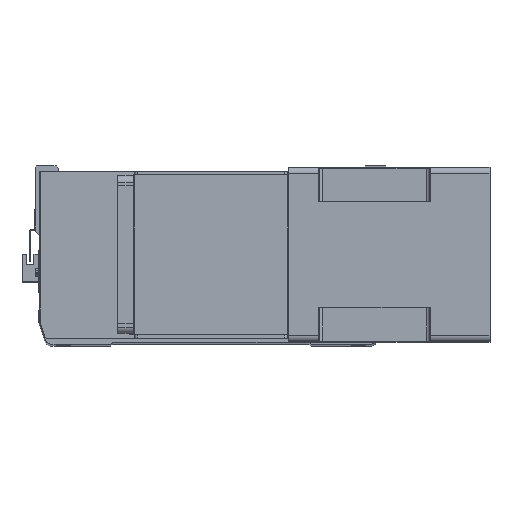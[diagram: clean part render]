
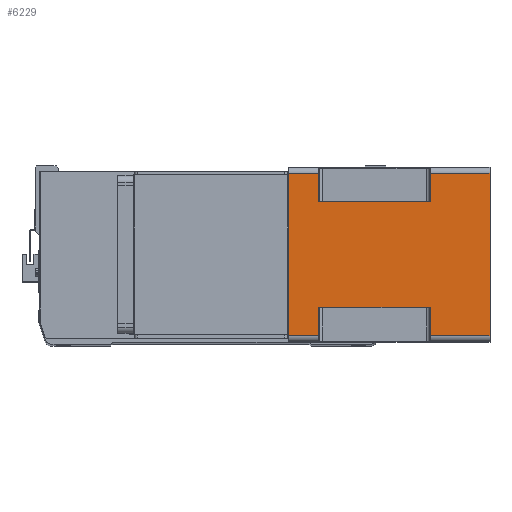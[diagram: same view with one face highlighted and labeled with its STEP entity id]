
A CAD part, top view. The second image highlights one B-rep face of the part: STEP entity #6229.
In plain terms, the highlighted planar face has unit normal (0, 0, 1) as drawn and (1, 0, 0) by its records, which use the part's own axes.
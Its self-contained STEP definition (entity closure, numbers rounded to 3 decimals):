
#34 = EDGE_CURVE ( 'NONE', #19601, #13227, #270, .T. ) ;
#270 = LINE ( 'NONE', #24966, #22769 ) ;
#347 = ORIENTED_EDGE ( 'NONE', *, *, #11411, .T. ) ;
#529 = CARTESIAN_POINT ( 'NONE',  ( 71., -66., 0. ) ) ;
#759 = FACE_OUTER_BOUND ( 'NONE', #18771, .T. ) ;
#811 = DIRECTION ( 'NONE',  ( 0., 0., 1. ) ) ;
#1099 = LINE ( 'NONE', #8951, #4324 ) ;
#1308 = VECTOR ( 'NONE', #4089, 1000. ) ;
#1511 = CARTESIAN_POINT ( 'NONE',  ( 71., -66., -164. ) ) ;
#2267 = CARTESIAN_POINT ( 'NONE',  ( 71., -43., -115.5 ) ) ;
#2676 = LINE ( 'NONE', #19445, #11937 ) ;
#3038 = ORIENTED_EDGE ( 'NONE', *, *, #28823, .T. ) ;
#3280 = CARTESIAN_POINT ( 'NONE',  ( 71., 66., 0. ) ) ;
#3373 = VERTEX_POINT ( 'NONE', #5859 ) ;
#3376 = VECTOR ( 'NONE', #24409, 1000. ) ;
#3589 = CARTESIAN_POINT ( 'NONE',  ( 71., 66., -164. ) ) ;
#3607 = LINE ( 'NONE', #529, #16077 ) ;
#3665 = EDGE_CURVE ( 'NONE', #28244, #28168, #4890, .T. ) ;
#3666 = VECTOR ( 'NONE', #6233, 1000. ) ;
#4089 = DIRECTION ( 'NONE',  ( 0., 0., 1. ) ) ;
#4093 = VERTEX_POINT ( 'NONE', #3280 ) ;
#4324 = VECTOR ( 'NONE', #6764, 1000. ) ;
#4890 = LINE ( 'NONE', #24646, #1308 ) ;
#5013 = EDGE_CURVE ( 'NONE', #25540, #28168, #8732, .T. ) ;
#5228 = VECTOR ( 'NONE', #19875, 1000. ) ;
#5267 = ORIENTED_EDGE ( 'NONE', *, *, #20108, .T. ) ;
#5511 = ORIENTED_EDGE ( 'NONE', *, *, #5013, .T. ) ;
#5859 = CARTESIAN_POINT ( 'NONE',  ( 71., 43., -115.5 ) ) ;
#6229 = ADVANCED_FACE ( 'NONE', ( #759 ), #10769, .T. ) ;
#6233 = DIRECTION ( 'NONE',  ( 0., 1., 0. ) ) ;
#6315 = CARTESIAN_POINT ( 'NONE',  ( 71., 43., -164. ) ) ;
#6400 = CARTESIAN_POINT ( 'NONE',  ( 71., -66., -164. ) ) ;
#6432 = CARTESIAN_POINT ( 'NONE',  ( 71., -43., -24.5 ) ) ;
#6647 = CARTESIAN_POINT ( 'NONE',  ( 71., -43., -24.5 ) ) ;
#6764 = DIRECTION ( 'NONE',  ( 0., 1., 0. ) ) ;
#6880 = LINE ( 'NONE', #6432, #3666 ) ;
#6943 = DIRECTION ( 'NONE',  ( 0., -1., 0. ) ) ;
#8732 = LINE ( 'NONE', #20586, #16228 ) ;
#8871 = VECTOR ( 'NONE', #23972, 1000. ) ;
#8951 = CARTESIAN_POINT ( 'NONE',  ( 71., -66., -164. ) ) ;
#10115 = ORIENTED_EDGE ( 'NONE', *, *, #34, .F. ) ;
#10355 = VECTOR ( 'NONE', #6943, 1000. ) ;
#10769 = PLANE ( 'NONE',  #17329 ) ;
#10863 = LINE ( 'NONE', #17721, #3376 ) ;
#11317 = VECTOR ( 'NONE', #28287, 1000. ) ;
#11411 = EDGE_CURVE ( 'NONE', #18208, #3373, #24980, .T. ) ;
#11575 = CARTESIAN_POINT ( 'NONE',  ( 71., 66., -24.5 ) ) ;
#11937 = VECTOR ( 'NONE', #811, 1000. ) ;
#13227 = VERTEX_POINT ( 'NONE', #15412 ) ;
#13677 = DIRECTION ( 'NONE',  ( 0., 0., 1. ) ) ;
#14489 = VERTEX_POINT ( 'NONE', #15448 ) ;
#14939 = LINE ( 'NONE', #26344, #8871 ) ;
#15090 = CARTESIAN_POINT ( 'NONE',  ( 71., -66., -115.5 ) ) ;
#15412 = CARTESIAN_POINT ( 'NONE',  ( 71., -66., 0. ) ) ;
#15448 = CARTESIAN_POINT ( 'NONE',  ( 71., 43., -24.5 ) ) ;
#16077 = VECTOR ( 'NONE', #20695, 1000. ) ;
#16228 = VECTOR ( 'NONE', #20483, 1000. ) ;
#17139 = VERTEX_POINT ( 'NONE', #6647 ) ;
#17307 = EDGE_CURVE ( 'NONE', #13227, #4093, #3607, .T. ) ;
#17329 = AXIS2_PLACEMENT_3D ( 'NONE', #1511, #26709, #19757 ) ;
#17721 = CARTESIAN_POINT ( 'NONE',  ( 71., 66., -164. ) ) ;
#18047 = ORIENTED_EDGE ( 'NONE', *, *, #18601, .F. ) ;
#18115 = CARTESIAN_POINT ( 'NONE',  ( 71., 43., -115.5 ) ) ;
#18208 = VERTEX_POINT ( 'NONE', #22151 ) ;
#18601 = EDGE_CURVE ( 'NONE', #14489, #3373, #25196, .T. ) ;
#18636 = ORIENTED_EDGE ( 'NONE', *, *, #21981, .T. ) ;
#18771 = EDGE_LOOP ( 'NONE', ( #23220, #5511, #21112, #23447, #18636, #347, #18047, #26508, #3038, #21561, #10115, #5267 ) ) ;
#18831 = VERTEX_POINT ( 'NONE', #11575 ) ;
#18985 = EDGE_CURVE ( 'NONE', #25540, #17139, #2676, .T. ) ;
#19445 = CARTESIAN_POINT ( 'NONE',  ( 71., -43., -164. ) ) ;
#19601 = VERTEX_POINT ( 'NONE', #26856 ) ;
#19757 = DIRECTION ( 'NONE',  ( 0., 1., 0. ) ) ;
#19875 = DIRECTION ( 'NONE',  ( 0., 0., -1. ) ) ;
#20108 = EDGE_CURVE ( 'NONE', #19601, #17139, #6880, .T. ) ;
#20483 = DIRECTION ( 'NONE',  ( 0., -1., 0. ) ) ;
#20586 = CARTESIAN_POINT ( 'NONE',  ( 71., -66., -115.5 ) ) ;
#20695 = DIRECTION ( 'NONE',  ( 0., 1., 0. ) ) ;
#21112 = ORIENTED_EDGE ( 'NONE', *, *, #3665, .F. ) ;
#21527 = CARTESIAN_POINT ( 'NONE',  ( 71., 66., -164. ) ) ;
#21561 = ORIENTED_EDGE ( 'NONE', *, *, #17307, .F. ) ;
#21981 = EDGE_CURVE ( 'NONE', #25347, #18208, #24908, .T. ) ;
#22151 = CARTESIAN_POINT ( 'NONE',  ( 71., 66., -115.5 ) ) ;
#22769 = VECTOR ( 'NONE', #13677, 1000. ) ;
#23220 = ORIENTED_EDGE ( 'NONE', *, *, #18985, .F. ) ;
#23447 = ORIENTED_EDGE ( 'NONE', *, *, #23505, .T. ) ;
#23505 = EDGE_CURVE ( 'NONE', #28244, #25347, #1099, .T. ) ;
#23972 = DIRECTION ( 'NONE',  ( 0., 1., 0. ) ) ;
#24409 = DIRECTION ( 'NONE',  ( 0., 0., 1. ) ) ;
#24646 = CARTESIAN_POINT ( 'NONE',  ( 71., -66., -164. ) ) ;
#24908 = LINE ( 'NONE', #21527, #11317 ) ;
#24966 = CARTESIAN_POINT ( 'NONE',  ( 71., -66., -164. ) ) ;
#24980 = LINE ( 'NONE', #18115, #10355 ) ;
#25196 = LINE ( 'NONE', #6315, #5228 ) ;
#25347 = VERTEX_POINT ( 'NONE', #3589 ) ;
#25540 = VERTEX_POINT ( 'NONE', #2267 ) ;
#26344 = CARTESIAN_POINT ( 'NONE',  ( 71., -66., -24.5 ) ) ;
#26508 = ORIENTED_EDGE ( 'NONE', *, *, #27200, .T. ) ;
#26709 = DIRECTION ( 'NONE',  ( 1., 0., 0. ) ) ;
#26856 = CARTESIAN_POINT ( 'NONE',  ( 71., -66., -24.5 ) ) ;
#27200 = EDGE_CURVE ( 'NONE', #14489, #18831, #14939, .T. ) ;
#28168 = VERTEX_POINT ( 'NONE', #15090 ) ;
#28244 = VERTEX_POINT ( 'NONE', #6400 ) ;
#28287 = DIRECTION ( 'NONE',  ( 0., 0., 1. ) ) ;
#28823 = EDGE_CURVE ( 'NONE', #18831, #4093, #10863, .T. ) ;
